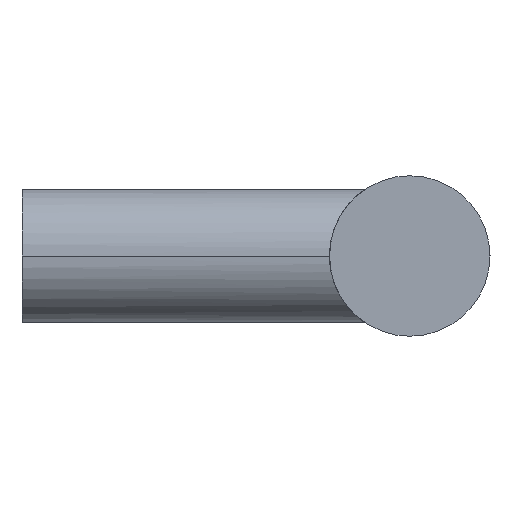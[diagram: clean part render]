
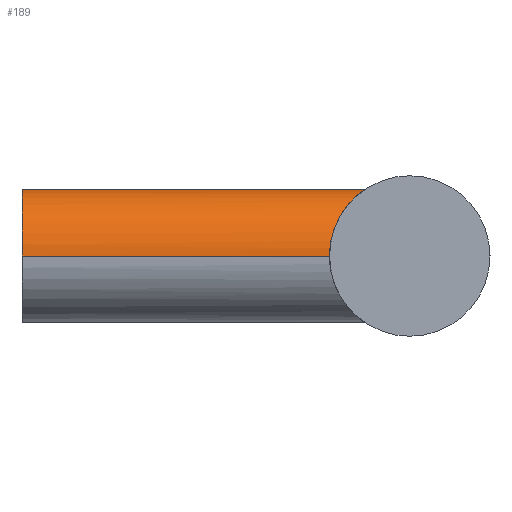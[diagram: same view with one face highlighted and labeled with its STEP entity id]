
A CAD part, left-side view. The second image highlights one B-rep face of the part: STEP entity #189.
In plain terms, the highlighted cylindrical face has radius 5 mm (diameter 10 mm), a partial arc.
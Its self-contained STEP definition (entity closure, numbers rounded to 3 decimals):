
#111 = VERTEX_POINT( '', #271 );
#117 = VERTEX_POINT( '', #278 );
#119 = EDGE_CURVE( '', #169, #219, #280, .T. );
#137 = EDGE_CURVE( '', #117, #111, #300, .T. );
#155 = VERTEX_POINT( '', #318 );
#165 = EDGE_CURVE( '', #111, #169, #332, .T. );
#167 = EDGE_CURVE( '', #155, #117, #334, .T. );
#169 = VERTEX_POINT( '', #336 );
#189 = ADVANCED_FACE( '', ( #359 ), #360, .T. );
#219 = VERTEX_POINT( '', #397 );
#231 = EDGE_CURVE( '', #219, #155, #409, .T. );
#271 = CARTESIAN_POINT( '', ( 5., 0., 0. ) );
#278 = CARTESIAN_POINT( '', ( -5., 0., 0. ) );
#280 = B_SPLINE_CURVE_WITH_KNOTS( '', 3, ( #453, #454, #455, #456, #457, #458, #459, #460, #461, #462, #463, #464, #465, #466, #467, #468, #469, #470 ), .UNSPECIFIED., .F., .F., ( 4, 2, 2, 2, 2, 2, 2, 2, 4 ), ( 24.483, 25.482, 26.481, 27.479, 28.478, 29.52, 30.561, 31.602, 32.643 ), .UNSPECIFIED. );
#300 = CIRCLE( '', #495, 5. );
#318 = CARTESIAN_POINT( '', ( -5., -23., 0. ) );
#332 = LINE( '', #567, #568 );
#334 = LINE( '', #571, #572 );
#336 = CARTESIAN_POINT( '', ( 5., -23., 0. ) );
#359 = FACE_OUTER_BOUND( '', #620, .T. );
#360 = CYLINDRICAL_SURFACE( '', #621, 5. );
#397 = CARTESIAN_POINT( '', ( 0., -25.683, 5. ) );
#409 = B_SPLINE_CURVE_WITH_KNOTS( '', 3, ( #733, #734, #735, #736, #737, #738, #739, #740, #741, #742, #743, #744, #745, #746, #747, #748, #749, #750 ), .UNSPECIFIED., .F., .F., ( 4, 2, 2, 2, 2, 2, 2, 2, 4 ), ( 0., 1.041, 2.083, 3.124, 4.165, 5.164, 6.163, 7.162, 8.161 ), .UNSPECIFIED. );
#453 = CARTESIAN_POINT( '', ( 5., -23., 0. ) );
#454 = CARTESIAN_POINT( '', ( 5., -23., 0.333 ) );
#455 = CARTESIAN_POINT( '', ( 4.966, -23.028, 0.672 ) );
#456 = CARTESIAN_POINT( '', ( 4.83, -23.141, 1.335 ) );
#457 = CARTESIAN_POINT( '', ( 4.728, -23.225, 1.659 ) );
#458 = CARTESIAN_POINT( '', ( 4.467, -23.437, 2.272 ) );
#459 = CARTESIAN_POINT( '', ( 4.306, -23.566, 2.561 ) );
#460 = CARTESIAN_POINT( '', ( 3.946, -23.847, 3.088 ) );
#461 = CARTESIAN_POINT( '', ( 3.745, -24., 3.326 ) );
#462 = CARTESIAN_POINT( '', ( 3.317, -24.311, 3.754 ) );
#463 = CARTESIAN_POINT( '', ( 3.073, -24.483, 3.957 ) );
#464 = CARTESIAN_POINT( '', ( 2.544, -24.825, 4.316 ) );
#465 = CARTESIAN_POINT( '', ( 2.259, -24.995, 4.472 ) );
#466 = CARTESIAN_POINT( '', ( 1.659, -25.301, 4.728 ) );
#467 = CARTESIAN_POINT( '', ( 1.343, -25.436, 4.828 ) );
#468 = CARTESIAN_POINT( '', ( 0.687, -25.627, 4.964 ) );
#469 = CARTESIAN_POINT( '', ( 0.347, -25.683, 5. ) );
#470 = CARTESIAN_POINT( '', ( 0., -25.683, 5. ) );
#495 = AXIS2_PLACEMENT_3D( '', #808, #809, #810 );
#567 = CARTESIAN_POINT( '', ( 5., 0., 0. ) );
#568 = VECTOR( '', #848, 1. );
#571 = CARTESIAN_POINT( '', ( -5., 0., 0. ) );
#572 = VECTOR( '', #849, 1. );
#620 = EDGE_LOOP( '', ( #873, #874, #875, #876, #877 ) );
#621 = AXIS2_PLACEMENT_3D( '', #878, #879, #880 );
#733 = CARTESIAN_POINT( '', ( 0., -25.683, 5. ) );
#734 = CARTESIAN_POINT( '', ( -0.347, -25.683, 5. ) );
#735 = CARTESIAN_POINT( '', ( -0.687, -25.627, 4.964 ) );
#736 = CARTESIAN_POINT( '', ( -1.343, -25.436, 4.828 ) );
#737 = CARTESIAN_POINT( '', ( -1.659, -25.301, 4.728 ) );
#738 = CARTESIAN_POINT( '', ( -2.259, -24.995, 4.472 ) );
#739 = CARTESIAN_POINT( '', ( -2.544, -24.825, 4.316 ) );
#740 = CARTESIAN_POINT( '', ( -3.073, -24.483, 3.957 ) );
#741 = CARTESIAN_POINT( '', ( -3.317, -24.311, 3.754 ) );
#742 = CARTESIAN_POINT( '', ( -3.745, -24., 3.326 ) );
#743 = CARTESIAN_POINT( '', ( -3.946, -23.847, 3.088 ) );
#744 = CARTESIAN_POINT( '', ( -4.306, -23.566, 2.561 ) );
#745 = CARTESIAN_POINT( '', ( -4.467, -23.437, 2.272 ) );
#746 = CARTESIAN_POINT( '', ( -4.728, -23.225, 1.659 ) );
#747 = CARTESIAN_POINT( '', ( -4.83, -23.141, 1.335 ) );
#748 = CARTESIAN_POINT( '', ( -4.966, -23.028, 0.672 ) );
#749 = CARTESIAN_POINT( '', ( -5., -23., 0.333 ) );
#750 = CARTESIAN_POINT( '', ( -5., -23., 0. ) );
#808 = CARTESIAN_POINT( '', ( 0., 0., 0. ) );
#809 = DIRECTION( '', ( 0., 1., 0. ) );
#810 = DIRECTION( '', ( 1., 0., 0. ) );
#848 = DIRECTION( '', ( 0., -1., 0. ) );
#849 = DIRECTION( '', ( 0., 1., 0. ) );
#873 = ORIENTED_EDGE( '', *, *, #165, .F. );
#874 = ORIENTED_EDGE( '', *, *, #137, .F. );
#875 = ORIENTED_EDGE( '', *, *, #167, .F. );
#876 = ORIENTED_EDGE( '', *, *, #231, .F. );
#877 = ORIENTED_EDGE( '', *, *, #119, .F. );
#878 = CARTESIAN_POINT( '', ( 0., 0., 0. ) );
#879 = DIRECTION( '', ( 0., 1., 0. ) );
#880 = DIRECTION( '', ( 1., 0., 0. ) );
